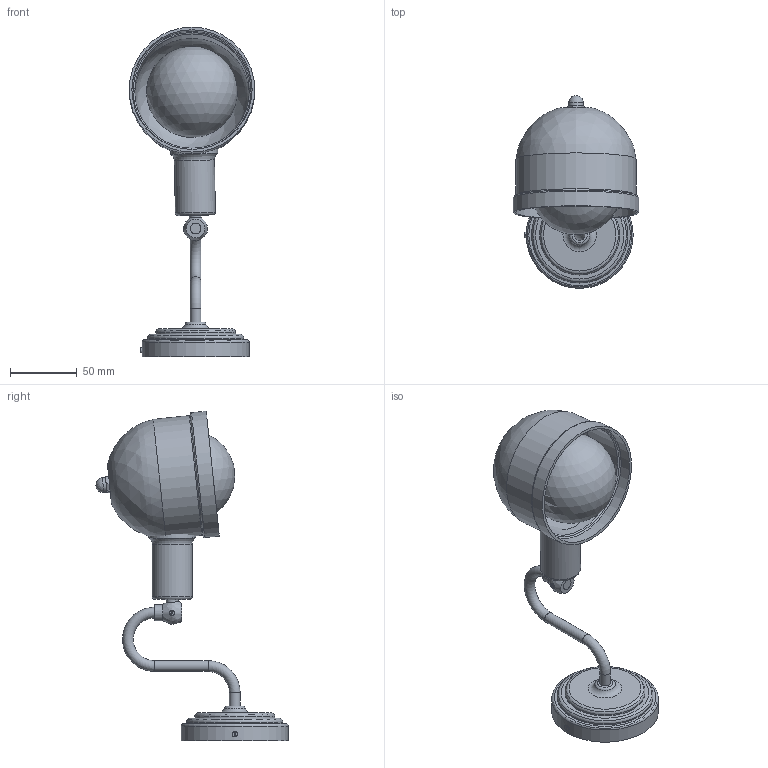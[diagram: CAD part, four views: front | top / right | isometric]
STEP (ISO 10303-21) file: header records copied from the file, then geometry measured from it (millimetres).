
FILE_DESCRIPTION(/* description */ (''),/* implementation_level */ '2;1');
FILE_NAME(/* name */ 'C:\Users\Patryk\Desktop\Modele BIAŁY\T60\KINKIET T60.stp',/* time_stamp */ '2019-12-15T01:11:41+01:00',/* author */ ('Patryk'),/* organization */ (''),/* preprocessor_version */ 'ST-DEVELOPER v17',/* originating_system */ 'Autodesk Inventor 2019',/* authorisation */ '');
FILE_SCHEMA (('AUTOMOTIVE_DESIGN { 1 0 10303 214 3 1 1 }'));
Length unit declared in the file: millimetre
Products named in the file (10): KINKIET T60; T60 mocowanie do ściany; T60 rurka; sruba; T60 kulka; T60 klosz II; T60 klosz; BS 4183 - M2 x 6; klosz II; t60 srubka
Assembly tree (9 placements, depth 2):
  KINKIET T60
    T60 mocowanie do ściany
    T60 rurka
    sruba
    T60 kulka
    T60 klosz II
    T60 klosz
    BS 4183 - M2 x 6
    klosz II
    t60 srubka
Bounding box: 94 x 144.01 x 246.78 mm (x, y, z)
Volume: 285967.5 mm3; surface area: 95358.3 mm2
Topology: 9 solids, 9 shells, 107 faces, 255 edges, 174 vertices
Faces by surface type: plane 45, cylinder 30, torus 15, cone 12, bspline 3, sphere 2
Full cylindrical faces by diameter (mm): 1.754 x1, 2 x1, 2.5 x1, 4 x3, 6.569 x1, 8 x5, 9 x1, 11.05 x1, 12 x1, 28.487 x1, 30 x1, 35 x1, 58 x1, 60 x1, 70 x1, 72 x1, 78 x1, 80 x1, 86 x1, 90 x2, 94 x1
Entity records: 3876 total; most frequent: CARTESIAN_POINT 953, DIRECTION 607, ORIENTED_EDGE 496, AXIS2_PLACEMENT_3D 274, EDGE_CURVE 248, VERTEX_POINT 172, CIRCLE 150, EDGE_LOOP 126
